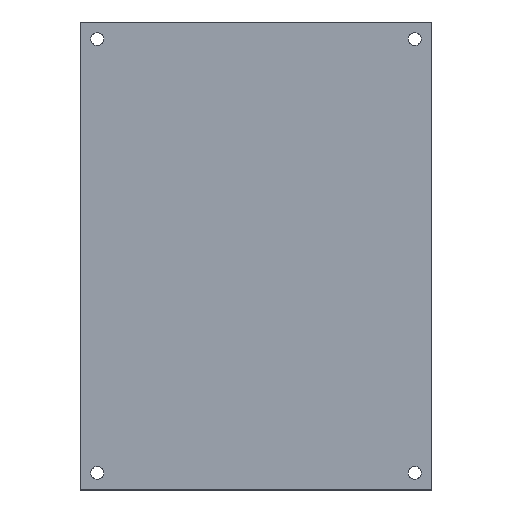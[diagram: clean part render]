
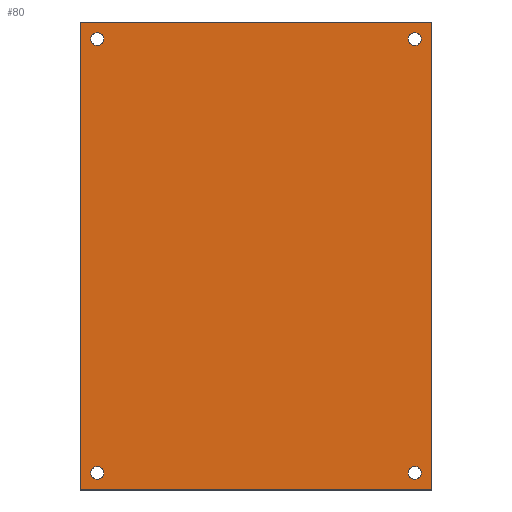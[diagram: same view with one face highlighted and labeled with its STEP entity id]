
A CAD part, top view. The second image highlights one B-rep face of the part: STEP entity #80.
In plain terms, the highlighted planar face has unit normal (0, 0, 1).
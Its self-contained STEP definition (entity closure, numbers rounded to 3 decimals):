
#54=FACE_BOUND('',#104,.T.);
#55=FACE_BOUND('',#105,.T.);
#56=FACE_BOUND('',#106,.T.);
#57=FACE_BOUND('',#107,.T.);
#58=FACE_BOUND('',#108,.T.);
#64=CIRCLE('',#218,2.25);
#66=CIRCLE('',#221,2.25);
#68=CIRCLE('',#224,2.25);
#70=CIRCLE('',#228,2.25);
#80=ADVANCED_FACE('',(#54,#55,#56,#57,#58),#86,.T.);
#86=PLANE('',#231);
#104=EDGE_LOOP('',(#138,#139,#140,#141));
#105=EDGE_LOOP('',(#142));
#106=EDGE_LOOP('',(#143));
#107=EDGE_LOOP('',(#144));
#108=EDGE_LOOP('',(#145));
#138=ORIENTED_EDGE('',*,*,#172,.T.);
#139=ORIENTED_EDGE('',*,*,#176,.T.);
#140=ORIENTED_EDGE('',*,*,#179,.T.);
#141=ORIENTED_EDGE('',*,*,#187,.T.);
#142=ORIENTED_EDGE('',*,*,#184,.F.);
#143=ORIENTED_EDGE('',*,*,#182,.F.);
#144=ORIENTED_EDGE('',*,*,#180,.F.);
#145=ORIENTED_EDGE('',*,*,#188,.F.);
#156=VERTEX_POINT('',#288);
#157=VERTEX_POINT('',#290);
#159=VERTEX_POINT('',#296);
#161=VERTEX_POINT('',#302);
#162=VERTEX_POINT('',#306);
#164=VERTEX_POINT('',#311);
#166=VERTEX_POINT('',#316);
#168=VERTEX_POINT('',#324);
#172=EDGE_CURVE('',#157,#156,#192,.T.);
#176=EDGE_CURVE('',#156,#159,#196,.T.);
#179=EDGE_CURVE('',#159,#161,#199,.T.);
#180=EDGE_CURVE('',#162,#162,#64,.T.);
#182=EDGE_CURVE('',#164,#164,#66,.T.);
#184=EDGE_CURVE('',#166,#166,#68,.T.);
#187=EDGE_CURVE('',#161,#157,#201,.T.);
#188=EDGE_CURVE('',#168,#168,#70,.T.);
#192=LINE('',#289,#204);
#196=LINE('',#297,#208);
#199=LINE('',#303,#211);
#201=LINE('',#321,#213);
#204=VECTOR('',#237,1.);
#208=VECTOR('',#243,1.);
#211=VECTOR('',#248,1.);
#213=VECTOR('',#270,1.);
#218=AXIS2_PLACEMENT_3D('',#305,#251,#252);
#221=AXIS2_PLACEMENT_3D('',#310,#257,#258);
#224=AXIS2_PLACEMENT_3D('',#315,#263,#264);
#228=AXIS2_PLACEMENT_3D('',#323,#273,#274);
#231=AXIS2_PLACEMENT_3D('',#328,#279,#280);
#237=DIRECTION('',(0.,-1.,0.));
#243=DIRECTION('',(1.,0.,0.));
#248=DIRECTION('',(0.,1.,0.));
#251=DIRECTION('',(0.,0.,1.));
#252=DIRECTION('',(1.,0.,0.));
#257=DIRECTION('',(0.,0.,1.));
#258=DIRECTION('',(1.,0.,0.));
#263=DIRECTION('',(0.,0.,1.));
#264=DIRECTION('',(1.,0.,0.));
#270=DIRECTION('',(-1.,0.,0.));
#273=DIRECTION('',(0.,0.,1.));
#274=DIRECTION('',(1.,0.,0.));
#279=DIRECTION('',(0.,0.,1.));
#280=DIRECTION('',(1.,0.,0.));
#288=CARTESIAN_POINT('',(0.,0.,1.5));
#289=CARTESIAN_POINT('',(0.,165.,1.5));
#290=CARTESIAN_POINT('',(0.,165.,1.5));
#296=CARTESIAN_POINT('',(124.,0.,1.5));
#297=CARTESIAN_POINT('',(0.,0.,1.5));
#302=CARTESIAN_POINT('',(124.,165.,1.5));
#303=CARTESIAN_POINT('',(124.,0.,1.5));
#305=CARTESIAN_POINT('',(118.,6.,1.5));
#306=CARTESIAN_POINT('',(120.25,6.,1.5));
#310=CARTESIAN_POINT('',(6.,159.,1.5));
#311=CARTESIAN_POINT('',(8.25,159.,1.5));
#315=CARTESIAN_POINT('',(6.,6.,1.5));
#316=CARTESIAN_POINT('',(8.25,6.,1.5));
#321=CARTESIAN_POINT('',(124.,165.,1.5));
#323=CARTESIAN_POINT('',(118.,159.,1.5));
#324=CARTESIAN_POINT('',(120.25,159.,1.5));
#328=CARTESIAN_POINT('',(6.,6.,1.5));
